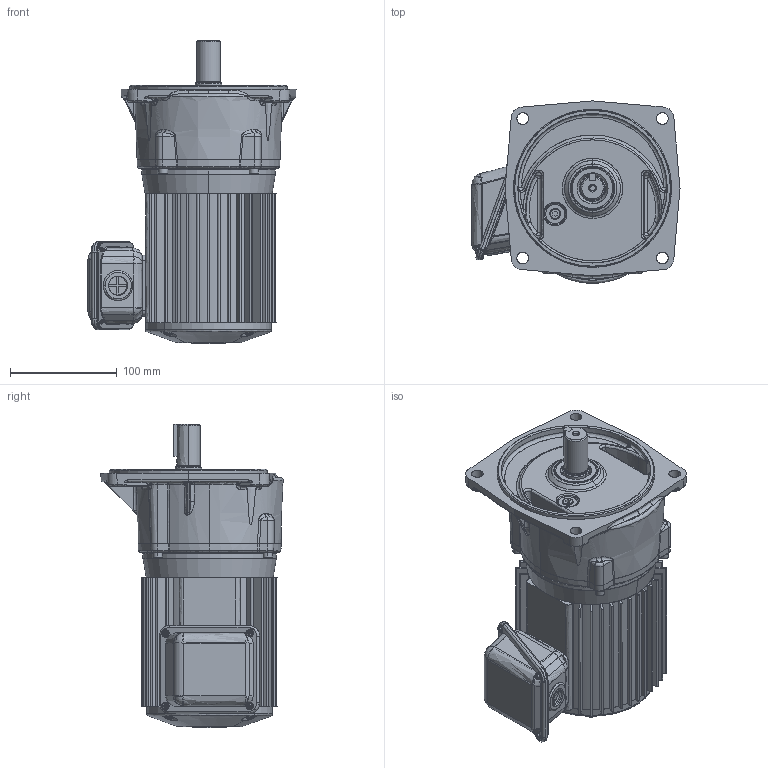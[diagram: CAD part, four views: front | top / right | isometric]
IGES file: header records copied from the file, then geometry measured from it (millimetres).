
Start section: SolidWorks IGES file using analytic representation for surfaces
Global section: file name: \\100.100.100.8\1_共有作業フォルダ\1-5_３Ｄデータ\solidworks\personal-folder\H.Nagayama\SGP1外形\P1(3D)\igs\TMF2-02-(40~80).IGS; native system: SolidWorks 2018; preprocessor: SolidWorks 2018; author: sigma-giken; date: 200508.141343; units: millimetre
Bounding box: 195 x 170.86 x 284.5 mm (x, y, z)
Surface area: 346040.3 mm2 (no closed solid volume)
Topology: 0 solids, 0 shells, 1370 faces, 16765 edges, 16745 vertices
Faces by surface type: bspline 756, revolution 614
